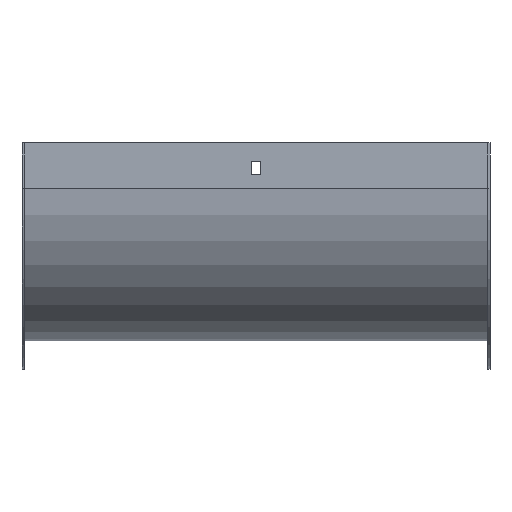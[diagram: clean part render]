
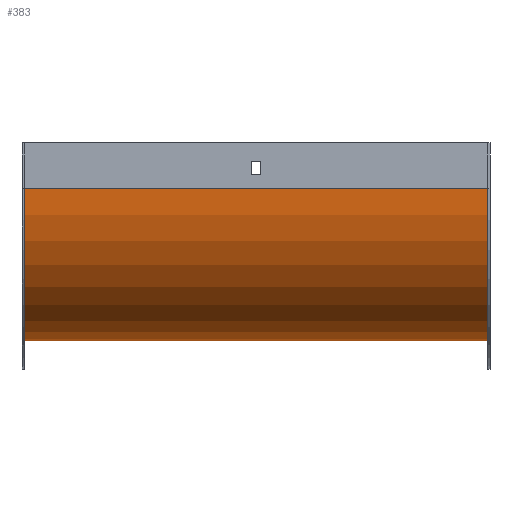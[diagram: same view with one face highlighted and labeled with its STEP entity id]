
A CAD part, front view. The second image highlights one B-rep face of the part: STEP entity #383.
In plain terms, the highlighted cylindrical face has radius 100 mm (diameter 200 mm), a partial arc.
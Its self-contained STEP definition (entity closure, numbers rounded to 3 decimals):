
#6 = VECTOR ( 'NONE', #258, 1000. ) ;
#8 = ORIENTED_EDGE ( 'NONE', *, *, #26, .T. ) ;
#26 = EDGE_CURVE ( 'NONE', #45, #348, #656, .T. ) ;
#30 = DIRECTION ( 'NONE',  ( 0., 0., -1. ) ) ;
#44 = ORIENTED_EDGE ( 'NONE', *, *, #631, .T. ) ;
#45 = VERTEX_POINT ( 'NONE', #639 ) ;
#86 = ORIENTED_EDGE ( 'NONE', *, *, #361, .F. ) ;
#114 = EDGE_CURVE ( 'NONE', #576, #735, #849, .T. ) ;
#122 = AXIS2_PLACEMENT_3D ( 'NONE', #329, #476, #168 ) ;
#146 = LINE ( 'NONE', #661, #6 ) ;
#152 = ORIENTED_EDGE ( 'NONE', *, *, #114, .F. ) ;
#168 = DIRECTION ( 'NONE',  ( 0., 0., -1. ) ) ;
#209 = CARTESIAN_POINT ( 'NONE',  ( 152., -1.5, -30. ) ) ;
#230 = CARTESIAN_POINT ( 'NONE',  ( -152., 98.5, -30. ) ) ;
#258 = DIRECTION ( 'NONE',  ( -1., 0., 0. ) ) ;
#264 = CARTESIAN_POINT ( 'NONE',  ( 153.5, 98.5, -30. ) ) ;
#287 = AXIS2_PLACEMENT_3D ( 'NONE', #230, #634, #30 ) ;
#329 = CARTESIAN_POINT ( 'NONE',  ( 152., 98.5, -30. ) ) ;
#348 = VERTEX_POINT ( 'NONE', #209 ) ;
#361 = EDGE_CURVE ( 'NONE', #45, #576, #146, .T. ) ;
#380 = CARTESIAN_POINT ( 'NONE',  ( -152., 98.5, -130. ) ) ;
#383 = ADVANCED_FACE ( 'NONE', ( #721 ), #475, .T. ) ;
#470 = EDGE_LOOP ( 'NONE', ( #152, #86, #8, #44 ) ) ;
#472 = VECTOR ( 'NONE', #783, 1000. ) ;
#475 = CYLINDRICAL_SURFACE ( 'NONE', #817, 100. ) ;
#476 = DIRECTION ( 'NONE',  ( -1., 0., 0. ) ) ;
#534 = CARTESIAN_POINT ( 'NONE',  ( 153.5, -1.5, -30. ) ) ;
#537 = CARTESIAN_POINT ( 'NONE',  ( -152., -1.5, -30. ) ) ;
#545 = DIRECTION ( 'NONE',  ( -1., 0., 0. ) ) ;
#576 = VERTEX_POINT ( 'NONE', #380 ) ;
#631 = EDGE_CURVE ( 'NONE', #348, #735, #857, .T. ) ;
#634 = DIRECTION ( 'NONE',  ( -1., 0., 0. ) ) ;
#639 = CARTESIAN_POINT ( 'NONE',  ( 152., 98.5, -130. ) ) ;
#656 = CIRCLE ( 'NONE', #122, 100. ) ;
#661 = CARTESIAN_POINT ( 'NONE',  ( 153.5, 98.5, -130. ) ) ;
#721 = FACE_OUTER_BOUND ( 'NONE', #470, .T. ) ;
#733 = DIRECTION ( 'NONE',  ( 0., 0., 1. ) ) ;
#735 = VERTEX_POINT ( 'NONE', #537 ) ;
#783 = DIRECTION ( 'NONE',  ( -1., 0., 0. ) ) ;
#817 = AXIS2_PLACEMENT_3D ( 'NONE', #264, #545, #733 ) ;
#849 = CIRCLE ( 'NONE', #287, 100. ) ;
#857 = LINE ( 'NONE', #534, #472 ) ;
